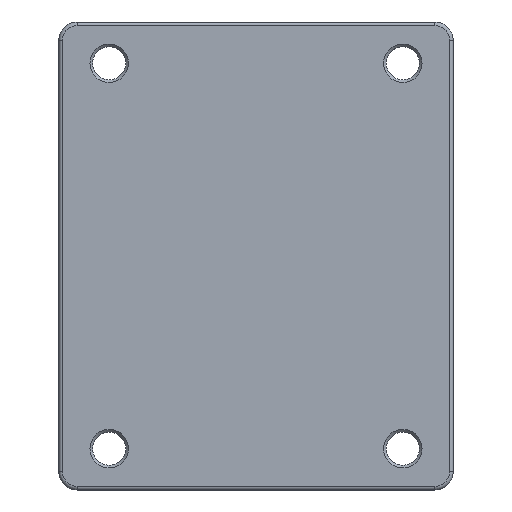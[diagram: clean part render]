
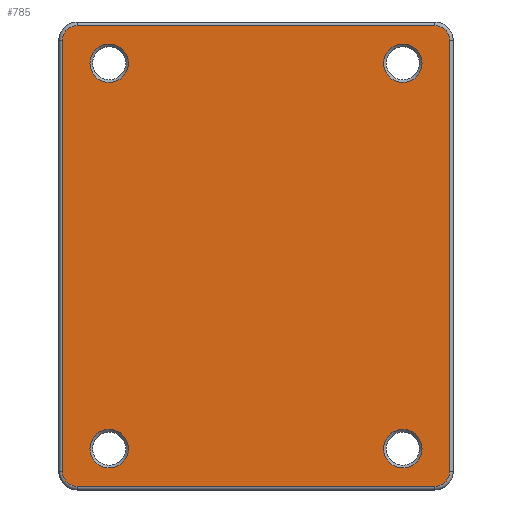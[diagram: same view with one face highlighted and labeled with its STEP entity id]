
A CAD part, top view. The second image highlights one B-rep face of the part: STEP entity #785.
In plain terms, the highlighted planar face has unit normal (0, 0, 1).
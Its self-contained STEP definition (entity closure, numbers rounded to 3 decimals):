
#463=CARTESIAN_POINT('',(129.438,259.767,-96.869));
#464=VERTEX_POINT('',#463);
#465=CARTESIAN_POINT('',(129.438,249.267,-96.869));
#466=DIRECTION('',(0.0,0.0,1.0));
#467=DIRECTION('',(0.0,-1.0,0.0));
#468=AXIS2_PLACEMENT_3D('',#465,#466,#467);
#469=CIRCLE('',#468,10.5);
#470=EDGE_CURVE('',#464,#464,#469,.T.);
#523=CARTESIAN_POINT('',(-30.562,259.767,-96.869));
#524=VERTEX_POINT('',#523);
#525=CARTESIAN_POINT('',(-30.562,249.267,-96.869));
#526=DIRECTION('',(0.0,0.0,1.0));
#527=DIRECTION('',(0.0,-1.0,0.0));
#528=AXIS2_PLACEMENT_3D('',#525,#526,#527);
#529=CIRCLE('',#528,10.5);
#530=EDGE_CURVE('',#524,#524,#529,.T.);
#583=CARTESIAN_POINT('',(-30.562,469.767,-96.869));
#584=VERTEX_POINT('',#583);
#585=CARTESIAN_POINT('',(-30.562,459.267,-96.869));
#586=DIRECTION('',(0.0,0.0,1.0));
#587=DIRECTION('',(0.0,-1.0,0.0));
#588=AXIS2_PLACEMENT_3D('',#585,#586,#587);
#589=CIRCLE('',#588,10.5);
#590=EDGE_CURVE('',#584,#584,#589,.T.);
#643=CARTESIAN_POINT('',(129.438,469.767,-96.869));
#644=VERTEX_POINT('',#643);
#645=CARTESIAN_POINT('',(129.438,459.267,-96.869));
#646=DIRECTION('',(0.0,0.0,1.0));
#647=DIRECTION('',(0.0,-1.0,0.0));
#648=AXIS2_PLACEMENT_3D('',#645,#646,#647);
#649=CIRCLE('',#648,10.5);
#650=EDGE_CURVE('',#644,#644,#649,.T.);
#698=CARTESIAN_POINT('',(49.438,354.267,-96.869));
#699=DIRECTION('',(0.0,0.0,1.0));
#700=DIRECTION('',(0.0,1.0,0.0));
#701=AXIS2_PLACEMENT_3D('',#698,#699,#700);
#702=PLANE('',#701);
#703=CARTESIAN_POINT('',(-56.062,236.767,-96.869));
#704=VERTEX_POINT('',#703);
#705=CARTESIAN_POINT('',(-56.062,471.767,-96.869));
#706=VERTEX_POINT('',#705);
#707=CARTESIAN_POINT('',(-56.062,236.767,-96.869));
#708=DIRECTION('',(0.0,1.0,0.0));
#709=VECTOR('',#708,235.);
#710=LINE('',#707,#709);
#711=EDGE_CURVE('',#704,#706,#710,.T.);
#712=ORIENTED_EDGE('',*,*,#711,.F.);
#713=CARTESIAN_POINT('',(-48.062,228.767,-96.869));
#714=VERTEX_POINT('',#713);
#715=CARTESIAN_POINT('',(-48.062,236.767,-96.869));
#716=DIRECTION('',(0.0,0.0,-1.));
#717=DIRECTION('',(-0.707,-0.707,0.0));
#718=AXIS2_PLACEMENT_3D('',#715,#716,#717);
#719=CIRCLE('',#718,8.);
#720=EDGE_CURVE('',#714,#704,#719,.T.);
#721=ORIENTED_EDGE('',*,*,#720,.F.);
#722=CARTESIAN_POINT('',(146.938,228.767,-96.869));
#723=VERTEX_POINT('',#722);
#724=CARTESIAN_POINT('',(146.938,228.767,-96.869));
#725=DIRECTION('',(-1.0,0.0,0.0));
#726=VECTOR('',#725,195.);
#727=LINE('',#724,#726);
#728=EDGE_CURVE('',#723,#714,#727,.T.);
#729=ORIENTED_EDGE('',*,*,#728,.F.);
#730=CARTESIAN_POINT('',(154.938,236.767,-96.869));
#731=VERTEX_POINT('',#730);
#732=CARTESIAN_POINT('',(146.938,236.767,-96.869));
#733=DIRECTION('',(0.0,0.0,-1.));
#734=DIRECTION('',(0.707,-0.707,0.0));
#735=AXIS2_PLACEMENT_3D('',#732,#733,#734);
#736=CIRCLE('',#735,8.);
#737=EDGE_CURVE('',#731,#723,#736,.T.);
#738=ORIENTED_EDGE('',*,*,#737,.F.);
#739=CARTESIAN_POINT('',(154.938,471.767,-96.869));
#740=VERTEX_POINT('',#739);
#741=CARTESIAN_POINT('',(154.938,471.767,-96.869));
#742=DIRECTION('',(0.0,-1.0,0.0));
#743=VECTOR('',#742,235.);
#744=LINE('',#741,#743);
#745=EDGE_CURVE('',#740,#731,#744,.T.);
#746=ORIENTED_EDGE('',*,*,#745,.F.);
#747=CARTESIAN_POINT('',(146.938,479.767,-96.869));
#748=VERTEX_POINT('',#747);
#749=CARTESIAN_POINT('',(146.938,471.767,-96.869));
#750=DIRECTION('',(0.0,0.0,-1.));
#751=DIRECTION('',(0.707,0.707,0.0));
#752=AXIS2_PLACEMENT_3D('',#749,#750,#751);
#753=CIRCLE('',#752,8.);
#754=EDGE_CURVE('',#748,#740,#753,.T.);
#755=ORIENTED_EDGE('',*,*,#754,.F.);
#756=CARTESIAN_POINT('',(-48.062,479.767,-96.869));
#757=VERTEX_POINT('',#756);
#758=CARTESIAN_POINT('',(-48.062,479.767,-96.869));
#759=DIRECTION('',(1.0,0.0,0.0));
#760=VECTOR('',#759,195.);
#761=LINE('',#758,#760);
#762=EDGE_CURVE('',#757,#748,#761,.T.);
#763=ORIENTED_EDGE('',*,*,#762,.F.);
#764=CARTESIAN_POINT('',(-48.062,471.767,-96.869));
#765=DIRECTION('',(0.0,0.0,-1.));
#766=DIRECTION('',(-0.707,0.707,0.0));
#767=AXIS2_PLACEMENT_3D('',#764,#765,#766);
#768=CIRCLE('',#767,8.);
#769=EDGE_CURVE('',#706,#757,#768,.T.);
#770=ORIENTED_EDGE('',*,*,#769,.F.);
#771=EDGE_LOOP('',(#712,#721,#729,#738,#746,#755,#763,#770));
#772=FACE_OUTER_BOUND('',#771,.T.);
#773=ORIENTED_EDGE('',*,*,#590,.F.);
#774=EDGE_LOOP('',(#773));
#775=FACE_BOUND('',#774,.T.);
#776=ORIENTED_EDGE('',*,*,#470,.F.);
#777=EDGE_LOOP('',(#776));
#778=FACE_BOUND('',#777,.T.);
#779=ORIENTED_EDGE('',*,*,#530,.F.);
#780=EDGE_LOOP('',(#779));
#781=FACE_BOUND('',#780,.T.);
#782=ORIENTED_EDGE('',*,*,#650,.F.);
#783=EDGE_LOOP('',(#782));
#784=FACE_BOUND('',#783,.T.);
#785=ADVANCED_FACE('',(#772,#775,#778,#781,#784),#702,.T.);
